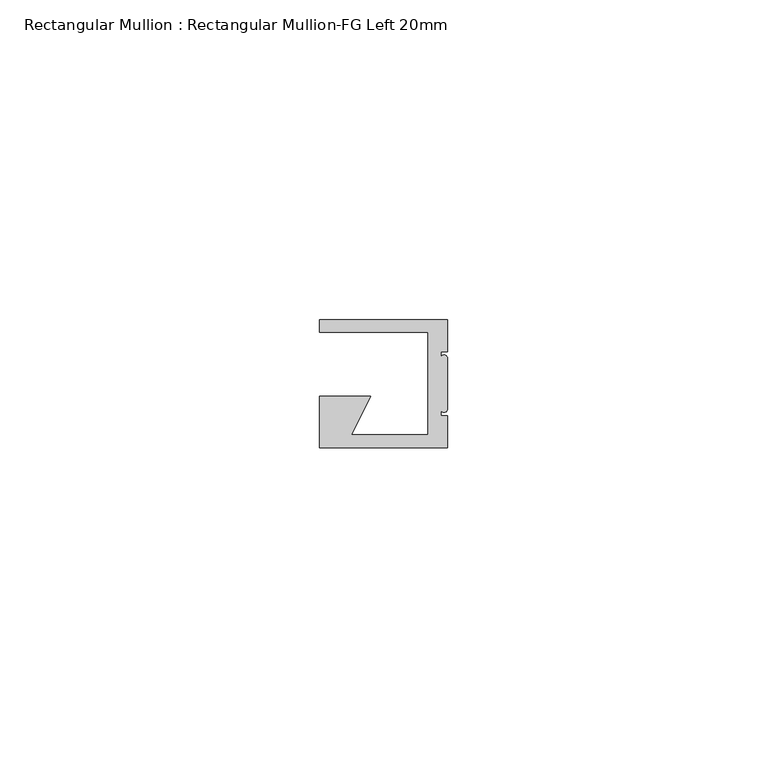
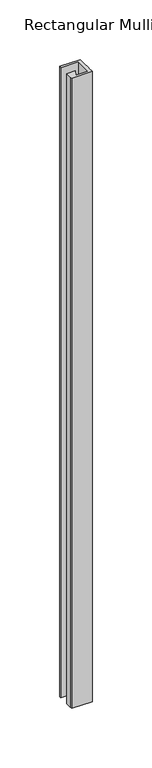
"""IFC4 building model written with IfcOpenShell, lengths in millimetres: member geometry, Rectangular Mullion : Rectangular Mullion-FG Left 20mm."""

from ifc_helpers import new_model, si_unit, point, frame, frame_2d, origin, place, context, project, spatial, polyline, circle_curve, trimmed, segment, composite_curve, outline, extrude, source, transform, mapped, element, save


def rectangular_mullion_rectangular_mullion_fg_left_20mm_1a1b1e89(model_context):
    return source(origin(), model_context, "Body", "SweptSolid", [
        extrude(outline(composite_curve([segment(polyline([(0.0, -15.0), (0.0, -20.0), (-20.0, -20.0), (-20.0, -18.0), (-20.0, -12.0), (-12.0, -12.0), (-15.0, -18.0), (-3.0, -18.0), (-3.0, -2.0), (-20.0, -2.0), (-20.0, 0.0), (0.0, 0.0), (0.0, -5.0), (-1.0, -5.0), (-1.0, -6.0)]), True, "CONTINUOUS"), segment(trimmed(circle_curve(frame_2d((-0.5, -6.0)), 0.5), [point((-1.0, -6.0))], [point((0.0, -6.0))], False, "CARTESIAN"), True, "CONTINUOUS"), segment(polyline([(0.0, -6.0), (0.0, -14.0)]), True, "CONTINUOUS"), segment(trimmed(circle_curve(frame_2d((-0.5, -14.0)), 0.5), [point((0.0, -14.0))], [point((-1.0, -14.0))], False, "CARTESIAN"), True, "CONTINUOUS"), segment(polyline([(-1.0, -14.0), (-1.0, -15.0), (0.0, -15.0)]), True, "CONTINUOUS")], self_intersect=False)), frame((0.0, 0.0, -644.999955), z_axis=(0.0, 0.0, 1.0), x_axis=(1.0, 0.0, 0.0)), (0.0, 0.0, 1.0), 644.999955),
    ])


if __name__ == "__main__":
    model = new_model("IFC4")
    model_context = context("Model", 3, world=origin())
    ifc_project = project(units=[si_unit("LENGTHUNIT", "METRE", prefix="MILLI")], contexts=[model_context])
    site = spatial("IfcSite", under=ifc_project)
    building = spatial("IfcBuilding", under=site)
    placement = place(None, origin())
    rectangular_mullion_rectangular_mullion_fg_left_20mm_shape = rectangular_mullion_rectangular_mullion_fg_left_20mm_1a1b1e89(model_context)
    element("IfcMember", 1, ObjectType="Rectangular Mullion : Rectangular Mullion-FG Left 20mm", at=placement, inside=building, context=model_context, shape_type="MappedRepresentation", body=[
        mapped(rectangular_mullion_rectangular_mullion_fg_left_20mm_shape, transform((0.0, 0.0, 0.0), x_axis=(1.0, 0.0, 0.0), y_axis=(0.0, 1.0, 0.0), z_axis=(0.0, 0.0, 1.0))),
    ])
    save(model, "model.ifc")
